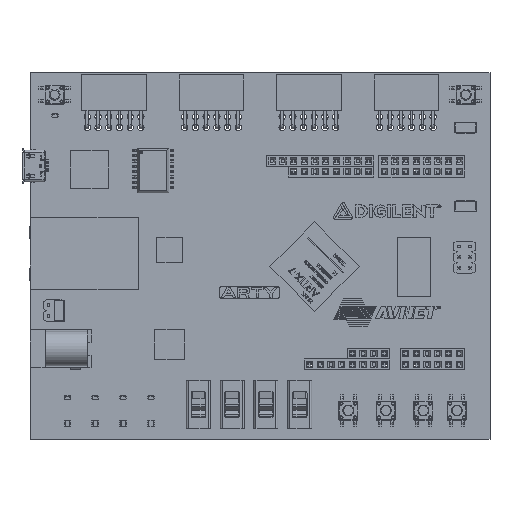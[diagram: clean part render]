
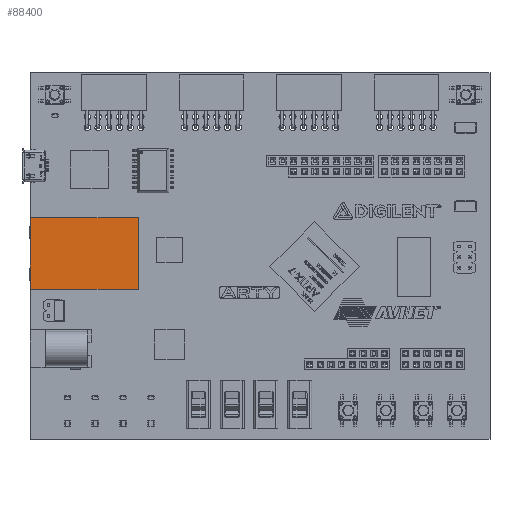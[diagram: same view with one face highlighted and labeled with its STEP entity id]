
A CAD part, top view. The second image highlights one B-rep face of the part: STEP entity #88400.
In plain terms, the highlighted planar face has unit normal (0, 0, 1) as drawn and (0, -1, 0) by its records, which use the part's own axes.
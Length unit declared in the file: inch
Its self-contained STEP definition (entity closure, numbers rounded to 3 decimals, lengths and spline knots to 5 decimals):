
#6326=VECTOR('',#101947,1.);
#6327=VECTOR('',#101949,1.);
#6328=VECTOR('',#101950,1.);
#6329=VECTOR('',#101951,1.);
#16433=LINE('',#120534,#6326);
#16434=LINE('',#120536,#6327);
#16435=LINE('',#120538,#6328);
#16436=LINE('',#120540,#6329);
#25882=PLANE('',#93992);
#30256=VERTEX_POINT('',#120529);
#30258=VERTEX_POINT('',#120533);
#30259=VERTEX_POINT('',#120537);
#30260=VERTEX_POINT('',#120539);
#40329=EDGE_CURVE('',#30256,#30258,#16433,.T.);
#40330=EDGE_CURVE('',#30259,#30256,#16434,.T.);
#40331=EDGE_CURVE('',#30260,#30258,#16435,.T.);
#40332=EDGE_CURVE('',#30260,#30259,#16436,.T.);
#54459=ORIENTED_EDGE('',*,*,#40330,.T.);
#54460=ORIENTED_EDGE('',*,*,#40329,.T.);
#54461=ORIENTED_EDGE('',*,*,#40331,.F.);
#54462=ORIENTED_EDGE('',*,*,#40332,.T.);
#77467=EDGE_LOOP('',(#54459,#54460,#54461,#54462));
#83132=FACE_BOUND('',#77467,.T.);
#88400=ADVANCED_FACE('',(#83132),#25882,.T.);
#93992=AXIS2_PLACEMENT_3D('',#120535,#101948,$);
#101947=DIRECTION('',(0.,0.,-1.));
#101948=DIRECTION('',(0.,-1.,0.));
#101949=DIRECTION('',(-1.,0.,0.));
#101950=DIRECTION('',(-1.,0.,0.));
#101951=DIRECTION('',(0.,0.,1.));
#120529=CARTESIAN_POINT('',(-0.47565,-0.00418,0.18766));
#120533=CARTESIAN_POINT('',(-0.47565,-0.00418,-0.48096));
#120534=CARTESIAN_POINT('',(-0.47565,-0.00418,-0.48096));
#120535=CARTESIAN_POINT('',(0.53222,-0.00418,-0.14665));
#120536=CARTESIAN_POINT('',(0.53222,-0.00418,0.18766));
#120537=CARTESIAN_POINT('',(0.53222,-0.00418,0.18766));
#120538=CARTESIAN_POINT('',(-0.47171,-0.00418,-0.48096));
#120539=CARTESIAN_POINT('',(0.53222,-0.00418,-0.48096));
#120540=CARTESIAN_POINT('',(0.53222,-0.00418,-0.48096));
